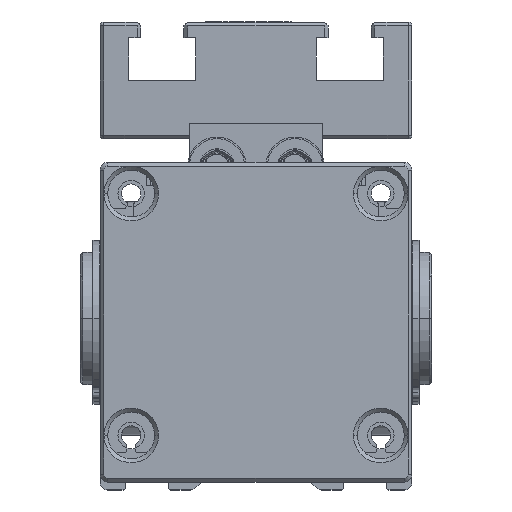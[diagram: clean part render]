
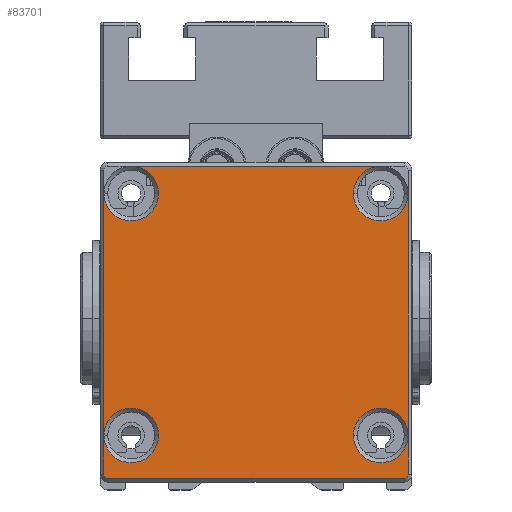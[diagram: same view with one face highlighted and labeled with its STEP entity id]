
A CAD part, front view. The second image highlights one B-rep face of the part: STEP entity #83701.
In plain terms, the highlighted planar face has unit normal (0, -1, 0) as drawn and (0, 0, 1) by its records, which use the part's own axes.
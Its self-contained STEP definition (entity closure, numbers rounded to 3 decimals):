
#155 = AXIS2_PLACEMENT_3D ( 'NONE', #99906, #102276, #148369 ) ;
#219 = DIRECTION ( 'NONE',  ( 0., 0., 1. ) ) ;
#269 = VECTOR ( 'NONE', #39234, 1000. ) ;
#2030 = VERTEX_POINT ( 'NONE', #110856 ) ;
#2120 = EDGE_CURVE ( 'NONE', #102944, #11201, #104735, .T. ) ;
#2952 = AXIS2_PLACEMENT_3D ( 'NONE', #102782, #151195, #125853 ) ;
#3382 = VECTOR ( 'NONE', #110307, 1000. ) ;
#3396 = CIRCLE ( 'NONE', #64301, 3.5 ) ;
#3814 = PLANE ( 'NONE',  #155 ) ;
#5944 = VERTEX_POINT ( 'NONE', #130271 ) ;
#6187 = FACE_OUTER_BOUND ( 'NONE', #115131, .T. ) ;
#6737 = DIRECTION ( 'NONE',  ( 0., 0., 1. ) ) ;
#6849 = EDGE_CURVE ( 'NONE', #11201, #5944, #15012, .T. ) ;
#7712 = EDGE_CURVE ( 'NONE', #154539, #70444, #76493, .T. ) ;
#8701 = CIRCLE ( 'NONE', #56904, 3.5 ) ;
#9943 = AXIS2_PLACEMENT_3D ( 'NONE', #40818, #148066, #76544 ) ;
#11201 = VERTEX_POINT ( 'NONE', #118358 ) ;
#12532 = EDGE_CURVE ( 'NONE', #2030, #34534, #141219, .T. ) ;
#12881 = DIRECTION ( 'NONE',  ( 1., 0., 0. ) ) ;
#14731 = CARTESIAN_POINT ( 'NONE',  ( -12.5, 7., 346. ) ) ;
#15012 = LINE ( 'NONE', #29255, #50951 ) ;
#19554 = EDGE_CURVE ( 'NONE', #11201, #102944, #73319, .T. ) ;
#19948 = CARTESIAN_POINT ( 'NONE',  ( -16., 38., 346. ) ) ;
#24003 = DIRECTION ( 'NONE',  ( 0., 0., -1. ) ) ;
#24772 = DIRECTION ( 'NONE',  ( -1., 0., 0. ) ) ;
#25563 = CARTESIAN_POINT ( 'NONE',  ( -19., 2., 346. ) ) ;
#25644 = DIRECTION ( 'NONE',  ( 1., 0., 0. ) ) ;
#27052 = ORIENTED_EDGE ( 'NONE', *, *, #70618, .F. ) ;
#28717 = DIRECTION ( 'NONE',  ( 0., 0., 1. ) ) ;
#29255 = CARTESIAN_POINT ( 'NONE',  ( -19.5, 22.5, 346. ) ) ;
#31156 = AXIS2_PLACEMENT_3D ( 'NONE', #44057, #6737, #44827 ) ;
#33337 = VECTOR ( 'NONE', #41737, 1000. ) ;
#34534 = VERTEX_POINT ( 'NONE', #56919 ) ;
#39234 = DIRECTION ( 'NONE',  ( 0., 1., 0. ) ) ;
#39633 = CIRCLE ( 'NONE', #54971, 3.5 ) ;
#40238 = VERTEX_POINT ( 'NONE', #53290 ) ;
#40818 = CARTESIAN_POINT ( 'NONE',  ( -16., 7., 346. ) ) ;
#40863 = CARTESIAN_POINT ( 'NONE',  ( 19.5, 7., 346. ) ) ;
#41737 = DIRECTION ( 'NONE',  ( 1., 0., 0. ) ) ;
#41746 = EDGE_CURVE ( 'NONE', #66446, #140383, #39633, .T. ) ;
#43576 = DIRECTION ( 'NONE',  ( 0., 0., 1. ) ) ;
#44016 = CIRCLE ( 'NONE', #56712, 3.5 ) ;
#44057 = CARTESIAN_POINT ( 'NONE',  ( -16., 7., 346. ) ) ;
#44408 = VECTOR ( 'NONE', #119497, 1000. ) ;
#44730 = ORIENTED_EDGE ( 'NONE', *, *, #54663, .T. ) ;
#44827 = DIRECTION ( 'NONE',  ( 1., 0., 0. ) ) ;
#47066 = LINE ( 'NONE', #133591, #99769 ) ;
#49435 = CARTESIAN_POINT ( 'NONE',  ( -16., 38., 346. ) ) ;
#50259 = CARTESIAN_POINT ( 'NONE',  ( 16., 38., 346. ) ) ;
#50951 = VECTOR ( 'NONE', #88014, 1000. ) ;
#52950 = CIRCLE ( 'NONE', #75693, 3.5 ) ;
#53290 = CARTESIAN_POINT ( 'NONE',  ( 12.5, 7., 346. ) ) ;
#54137 = DIRECTION ( 'NONE',  ( 1., 0., 0. ) ) ;
#54663 = EDGE_CURVE ( 'NONE', #63551, #140383, #100370, .T. ) ;
#54971 = AXIS2_PLACEMENT_3D ( 'NONE', #58129, #131171, #155718 ) ;
#55213 = LINE ( 'NONE', #103644, #3382 ) ;
#55616 = VERTEX_POINT ( 'NONE', #89106 ) ;
#56712 = AXIS2_PLACEMENT_3D ( 'NONE', #50259, #99419, #87528 ) ;
#56904 = AXIS2_PLACEMENT_3D ( 'NONE', #19948, #28717, #54137 ) ;
#56919 = CARTESIAN_POINT ( 'NONE',  ( -19.5, 2., 346. ) ) ;
#58129 = CARTESIAN_POINT ( 'NONE',  ( 16., 38., 346. ) ) ;
#58993 = DIRECTION ( 'NONE',  ( 0., 0., 1. ) ) ;
#63551 = VERTEX_POINT ( 'NONE', #40863 ) ;
#64301 = AXIS2_PLACEMENT_3D ( 'NONE', #49435, #58993, #25644 ) ;
#66446 = VERTEX_POINT ( 'NONE', #83002 ) ;
#70444 = VERTEX_POINT ( 'NONE', #121574 ) ;
#70618 = EDGE_CURVE ( 'NONE', #40238, #63551, #121711, .T. ) ;
#72758 = AXIS2_PLACEMENT_3D ( 'NONE', #25563, #24003, #24772 ) ;
#73319 = CIRCLE ( 'NONE', #9943, 3.5 ) ;
#75133 = CARTESIAN_POINT ( 'NONE',  ( 0., 41.5, 346. ) ) ;
#75693 = AXIS2_PLACEMENT_3D ( 'NONE', #88327, #219, #145594 ) ;
#75915 = AXIS2_PLACEMENT_3D ( 'NONE', #139684, #43576, #94319 ) ;
#76493 = CIRCLE ( 'NONE', #2952, 0.5 ) ;
#76544 = DIRECTION ( 'NONE',  ( 1., 0., 0. ) ) ;
#77036 = ORIENTED_EDGE ( 'NONE', *, *, #2120, .F. ) ;
#80511 = ORIENTED_EDGE ( 'NONE', *, *, #156315, .F. ) ;
#82398 = EDGE_CURVE ( 'NONE', #63551, #40238, #52950, .T. ) ;
#82894 = LINE ( 'NONE', #84467, #44408 ) ;
#83002 = CARTESIAN_POINT ( 'NONE',  ( 12.5, 38., 346. ) ) ;
#83701 = ADVANCED_FACE ( 'NONE', ( #6187 ), #3814, .T. ) ;
#84467 = CARTESIAN_POINT ( 'NONE',  ( -19.5, 4.5, 346. ) ) ;
#85182 = ORIENTED_EDGE ( 'NONE', *, *, #6849, .F. ) ;
#85322 = CARTESIAN_POINT ( 'NONE',  ( 19.5, 22.5, 346. ) ) ;
#87528 = DIRECTION ( 'NONE',  ( 1., 0., 0. ) ) ;
#87738 = ORIENTED_EDGE ( 'NONE', *, *, #119128, .T. ) ;
#88014 = DIRECTION ( 'NONE',  ( 0., 1., 0. ) ) ;
#88327 = CARTESIAN_POINT ( 'NONE',  ( 16., 7., 346. ) ) ;
#89106 = CARTESIAN_POINT ( 'NONE',  ( 16., 41.5, 346. ) ) ;
#89449 = ORIENTED_EDGE ( 'NONE', *, *, #142312, .F. ) ;
#90339 = EDGE_CURVE ( 'NONE', #143746, #55616, #101308, .T. ) ;
#92470 = EDGE_CURVE ( 'NONE', #136452, #143746, #3396, .T. ) ;
#94319 = DIRECTION ( 'NONE',  ( 1., 0., 0. ) ) ;
#96632 = ORIENTED_EDGE ( 'NONE', *, *, #41746, .F. ) ;
#99419 = DIRECTION ( 'NONE',  ( 0., 0., 1. ) ) ;
#99769 = VECTOR ( 'NONE', #12881, 1000. ) ;
#99906 = CARTESIAN_POINT ( 'NONE',  ( 0., 1., 346. ) ) ;
#100132 = ORIENTED_EDGE ( 'NONE', *, *, #133550, .F. ) ;
#100370 = LINE ( 'NONE', #85322, #269 ) ;
#101308 = LINE ( 'NONE', #75133, #33337 ) ;
#101557 = EDGE_CURVE ( 'NONE', #154539, #63551, #55213, .T. ) ;
#102154 = ORIENTED_EDGE ( 'NONE', *, *, #12532, .F. ) ;
#102276 = DIRECTION ( 'NONE',  ( 0., 0., 1. ) ) ;
#102782 = CARTESIAN_POINT ( 'NONE',  ( 19., 2., 346. ) ) ;
#102944 = VERTEX_POINT ( 'NONE', #14731 ) ;
#103644 = CARTESIAN_POINT ( 'NONE',  ( 19.5, 4.5, 346. ) ) ;
#104735 = CIRCLE ( 'NONE', #31156, 3.5 ) ;
#109597 = ORIENTED_EDGE ( 'NONE', *, *, #101557, .T. ) ;
#110307 = DIRECTION ( 'NONE',  ( 0., 1., 0. ) ) ;
#110849 = ORIENTED_EDGE ( 'NONE', *, *, #92470, .F. ) ;
#110856 = CARTESIAN_POINT ( 'NONE',  ( -19., 1.5, 346. ) ) ;
#114422 = CARTESIAN_POINT ( 'NONE',  ( -16., 41.5, 346. ) ) ;
#115131 = EDGE_LOOP ( 'NONE', ( #85182, #77036, #123657, #100132, #102154, #87738, #140919, #109597, #27052, #139143, #44730, #96632, #89449, #118175, #110849, #80511 ) ) ;
#118175 = ORIENTED_EDGE ( 'NONE', *, *, #90339, .F. ) ;
#118358 = CARTESIAN_POINT ( 'NONE',  ( -19.5, 7., 346. ) ) ;
#119128 = EDGE_CURVE ( 'NONE', #2030, #70444, #47066, .T. ) ;
#119497 = DIRECTION ( 'NONE',  ( 0., 1., 0. ) ) ;
#121574 = CARTESIAN_POINT ( 'NONE',  ( 19., 1.5, 346. ) ) ;
#121711 = CIRCLE ( 'NONE', #75915, 3.5 ) ;
#123657 = ORIENTED_EDGE ( 'NONE', *, *, #19554, .F. ) ;
#125853 = DIRECTION ( 'NONE',  ( -1., 0., 0. ) ) ;
#130271 = CARTESIAN_POINT ( 'NONE',  ( -19.5, 38., 346. ) ) ;
#131171 = DIRECTION ( 'NONE',  ( 0., 0., 1. ) ) ;
#133550 = EDGE_CURVE ( 'NONE', #34534, #11201, #82894, .T. ) ;
#133591 = CARTESIAN_POINT ( 'NONE',  ( 0., 1.5, 346. ) ) ;
#136452 = VERTEX_POINT ( 'NONE', #136667 ) ;
#136667 = CARTESIAN_POINT ( 'NONE',  ( -12.5, 38., 346. ) ) ;
#139143 = ORIENTED_EDGE ( 'NONE', *, *, #82398, .F. ) ;
#139684 = CARTESIAN_POINT ( 'NONE',  ( 16., 7., 346. ) ) ;
#140383 = VERTEX_POINT ( 'NONE', #140819 ) ;
#140819 = CARTESIAN_POINT ( 'NONE',  ( 19.5, 38., 346. ) ) ;
#140919 = ORIENTED_EDGE ( 'NONE', *, *, #7712, .F. ) ;
#141219 = CIRCLE ( 'NONE', #72758, 0.5 ) ;
#142312 = EDGE_CURVE ( 'NONE', #55616, #66446, #44016, .T. ) ;
#143746 = VERTEX_POINT ( 'NONE', #114422 ) ;
#145594 = DIRECTION ( 'NONE',  ( 1., 0., 0. ) ) ;
#148066 = DIRECTION ( 'NONE',  ( 0., 0., 1. ) ) ;
#148369 = DIRECTION ( 'NONE',  ( 1., 0., 0. ) ) ;
#151195 = DIRECTION ( 'NONE',  ( 0., 0., -1. ) ) ;
#153782 = CARTESIAN_POINT ( 'NONE',  ( 19.5, 2., 346. ) ) ;
#154539 = VERTEX_POINT ( 'NONE', #153782 ) ;
#155718 = DIRECTION ( 'NONE',  ( 1., 0., 0. ) ) ;
#156315 = EDGE_CURVE ( 'NONE', #5944, #136452, #8701, .T. ) ;
